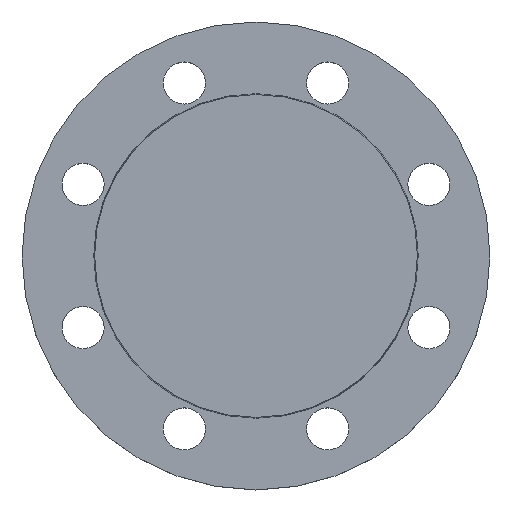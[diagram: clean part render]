
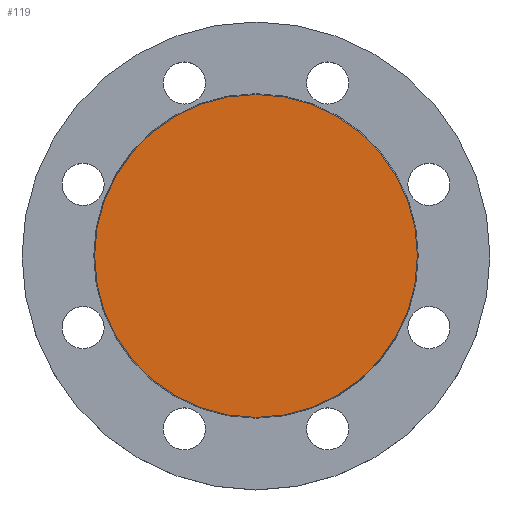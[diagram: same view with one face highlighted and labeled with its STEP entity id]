
A CAD part, top view. The second image highlights one B-rep face of the part: STEP entity #119.
In plain terms, the highlighted planar face has unit normal (0, 0, 1).
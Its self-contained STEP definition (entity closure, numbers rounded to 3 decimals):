
#32 = CIRCLE ( 'NONE', #583, 69. ) ;
#74 = AXIS2_PLACEMENT_3D ( 'NONE', #179, #178, #176 ) ;
#98 = CIRCLE ( 'NONE', #74, 69. ) ;
#119 = ADVANCED_FACE ( 'NONE', ( #566 ), #567, .T. ) ;
#139 = AXIS2_PLACEMENT_3D ( 'NONE', #568, #570, #571 ) ;
#176 = DIRECTION ( 'NONE',  ( -1., 0., 0. ) ) ;
#178 = DIRECTION ( 'NONE',  ( 0., 0., -1. ) ) ;
#179 = CARTESIAN_POINT ( 'NONE',  ( 0., 0., 0. ) ) ;
#194 = CARTESIAN_POINT ( 'NONE',  ( 69., 0., 0. ) ) ;
#258 = CARTESIAN_POINT ( 'NONE',  ( -69., 0., 0. ) ) ;
#328 = DIRECTION ( 'NONE',  ( -1., 0., 0. ) ) ;
#329 = DIRECTION ( 'NONE',  ( 0., 0., -1. ) ) ;
#330 = CARTESIAN_POINT ( 'NONE',  ( 0., 0., 0. ) ) ;
#566 = FACE_OUTER_BOUND ( 'NONE', #679, .T. ) ;
#567 = PLANE ( 'NONE',  #139 ) ;
#568 = CARTESIAN_POINT ( 'NONE',  ( 0., 0., 0. ) ) ;
#570 = DIRECTION ( 'NONE',  ( 0., 0., 1. ) ) ;
#571 = DIRECTION ( 'NONE',  ( 1., 0., 0. ) ) ;
#583 = AXIS2_PLACEMENT_3D ( 'NONE', #330, #329, #328 ) ;
#679 = EDGE_LOOP ( 'NONE', ( #867, #868 ) ) ;
#685 = EDGE_CURVE ( 'NONE', #706, #752, #32, .T. ) ;
#706 = VERTEX_POINT ( 'NONE', #258 ) ;
#752 = VERTEX_POINT ( 'NONE', #194 ) ;
#778 = EDGE_CURVE ( 'NONE', #752, #706, #98, .T. ) ;
#867 = ORIENTED_EDGE ( 'NONE', *, *, #685, .F. ) ;
#868 = ORIENTED_EDGE ( 'NONE', *, *, #778, .F. ) ;
